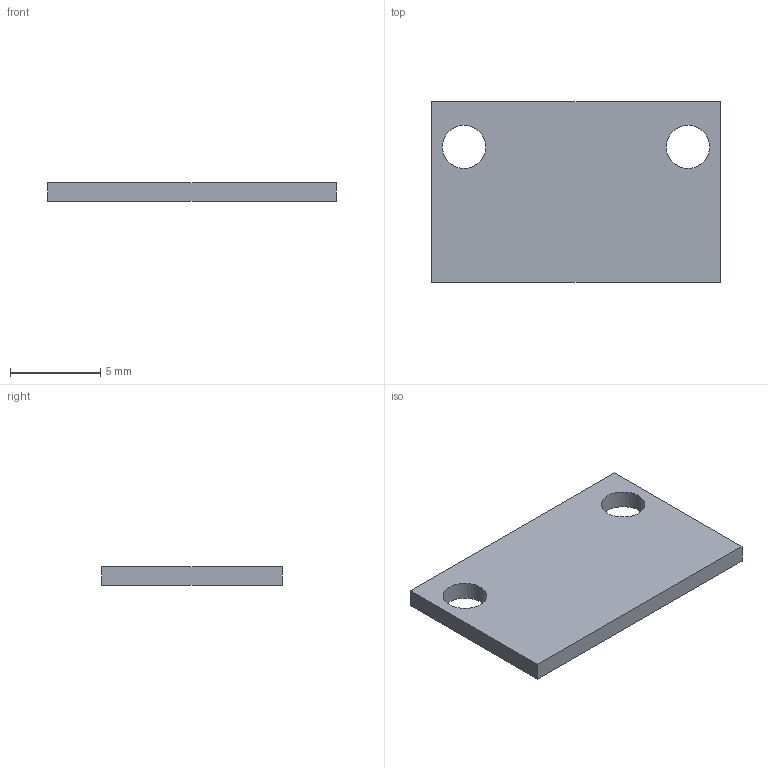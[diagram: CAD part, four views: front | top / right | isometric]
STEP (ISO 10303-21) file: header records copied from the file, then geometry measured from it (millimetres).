
FILE_DESCRIPTION(('Open CASCADE Model'),'2;1');
FILE_NAME('Open CASCADE Shape Model','2026-10-16T20:10:47',('Author'),( 'Open CASCADE'),'Open CASCADE STEP processor 7.9','Open CASCADE 7.9' ,'Unknown');
FILE_SCHEMA(('AUTOMOTIVE_DESIGN { 1 0 10303 214 1 1 1 1 }'));
Length unit declared in the file: millimetre
Products named in the file (1): Open CASCADE STEP translator 7.9 73
Bounding box: 16 x 10 x 1 mm (x, y, z)
Volume: 151 mm3; surface area: 369 mm2
Topology: 1 solids, 1 shells, 8 faces, 18 edges, 12 vertices
Faces by surface type: plane 6, cylinder 2
Full cylindrical faces by diameter (mm): 2.4 x2
Entity records: 490 total; most frequent: CARTESIAN_POINT 99, DIRECTION 72, LINE 46, VECTOR 46, ORIENTED_EDGE 36, PCURVE 36, DEFINITIONAL_REPRESENTATION 36, EDGE_CURVE 18
